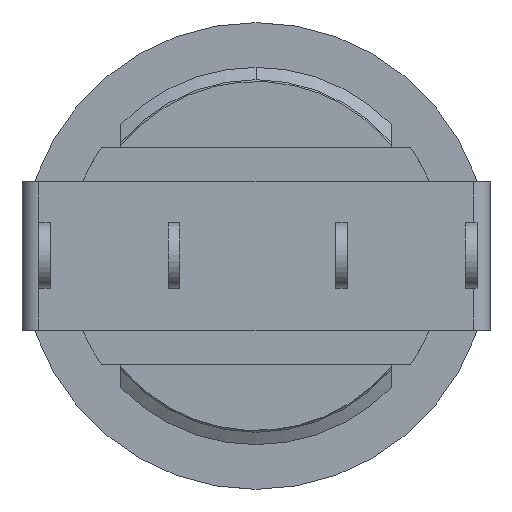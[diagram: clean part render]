
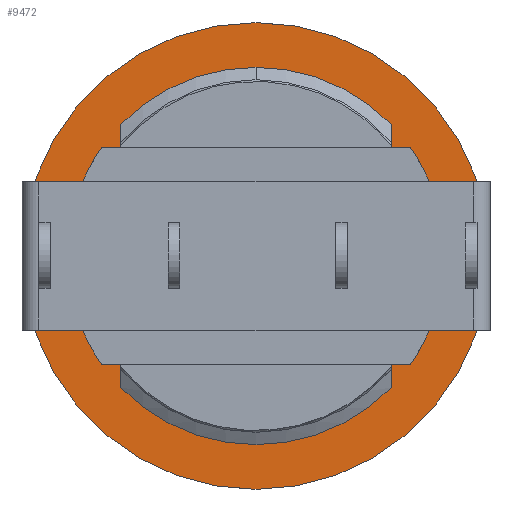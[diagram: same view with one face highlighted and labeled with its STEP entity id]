
A CAD part, front view. The second image highlights one B-rep face of the part: STEP entity #9472.
In plain terms, the highlighted planar face has unit normal (0, -1, 0).
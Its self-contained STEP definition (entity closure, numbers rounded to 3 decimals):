
#202 = CARTESIAN_POINT ( 'NONE',  ( 5.735, -5.1, 7.515 ) ) ;
#346 = PLANE ( 'NONE',  #8322 ) ;
#645 = EDGE_LOOP ( 'NONE', ( #3432, #6925 ) ) ;
#848 = EDGE_CURVE ( 'NONE', #8955, #4839, #5788, .T. ) ;
#1081 = DIRECTION ( 'NONE',  ( 0., 0., 1. ) ) ;
#1246 = CARTESIAN_POINT ( 'NONE',  ( 0., -5.1, 12.214 ) ) ;
#1252 = VERTEX_POINT ( 'NONE', #8197 ) ;
#1292 = CARTESIAN_POINT ( 'NONE',  ( 2.529, -5.1, 20.826 ) ) ;
#1348 = CARTESIAN_POINT ( 'NONE',  ( 2.529, -5.1, 3.602 ) ) ;
#1515 = ORIENTED_EDGE ( 'NONE', *, *, #848, .F. ) ;
#1582 = CARTESIAN_POINT ( 'NONE',  ( 0., -5.1, 2.314 ) ) ;
#1636 =( BOUNDED_CURVE ( )  B_SPLINE_CURVE ( 3, ( #5682, #1292, #7905, #3477 ),
 .UNSPECIFIED., .F., .T. ) 
 B_SPLINE_CURVE_WITH_KNOTS ( ( 4, 4 ),
 ( 0., 0.013 ),
 .UNSPECIFIED. ) 
 CURVE ( )  GEOMETRIC_REPRESENTATION_ITEM ( )  RATIONAL_B_SPLINE_CURVE ( ( 0.982, 0.742, 0.742, 0.982 ) ) 
 REPRESENTATION_ITEM ( '' )  );
#1664 = EDGE_CURVE ( 'NONE', #1252, #4468, #1804, .T. ) ;
#1787 = AXIS2_PLACEMENT_3D ( 'NONE', #3161, #8350, #3922 ) ;
#1804 = CIRCLE ( 'NONE', #6633, 9.9 ) ;
#1890 = VECTOR ( 'NONE', #7682, 1000. ) ;
#2082 = ORIENTED_EDGE ( 'NONE', *, *, #7396, .F. ) ;
#2298 = EDGE_CURVE ( 'NONE', #4060, #8955, #8040, .T. ) ;
#2327 = CARTESIAN_POINT ( 'NONE',  ( -5.735, -5.1, 7.515 ) ) ;
#3161 = CARTESIAN_POINT ( 'NONE',  ( 0., -5.1, 12.214 ) ) ;
#3391 = CARTESIAN_POINT ( 'NONE',  ( 5.735, -5.1, 16.913 ) ) ;
#3432 = ORIENTED_EDGE ( 'NONE', *, *, #1664, .F. ) ;
#3477 = CARTESIAN_POINT ( 'NONE',  ( -5.735, -5.1, 16.913 ) ) ;
#3493 = FACE_OUTER_BOUND ( 'NONE', #645, .T. ) ;
#3887 = CARTESIAN_POINT ( 'NONE',  ( -5.735, -5.1, 12.214 ) ) ;
#3894 = ORIENTED_EDGE ( 'NONE', *, *, #2298, .F. ) ;
#3897 = DIRECTION ( 'NONE',  ( 0., 0., 1. ) ) ;
#3922 = DIRECTION ( 'NONE',  ( 0., 0., 1. ) ) ;
#3991 = CARTESIAN_POINT ( 'NONE',  ( -10.019, -5.1, 2.195 ) ) ;
#4024 = CARTESIAN_POINT ( 'NONE',  ( 5.735, -5.1, 12.214 ) ) ;
#4060 = VERTEX_POINT ( 'NONE', #2327 ) ;
#4068 = CIRCLE ( 'NONE', #1787, 9.9 ) ;
#4166 = DIRECTION ( 'NONE',  ( 0., 1., 0. ) ) ;
#4468 = VERTEX_POINT ( 'NONE', #1582 ) ;
#4741 = VECTOR ( 'NONE', #5351, 1000. ) ;
#4839 = VERTEX_POINT ( 'NONE', #3391 ) ;
#5008 = CARTESIAN_POINT ( 'NONE',  ( -5.735, -5.1, 7.515 ) ) ;
#5351 = DIRECTION ( 'NONE',  ( 0., 0., -1. ) ) ;
#5419 = EDGE_CURVE ( 'NONE', #4468, #1252, #4068, .T. ) ;
#5452 = DIRECTION ( 'NONE',  ( 0., 1., 0. ) ) ;
#5682 = CARTESIAN_POINT ( 'NONE',  ( 5.735, -5.1, 16.913 ) ) ;
#5737 = CARTESIAN_POINT ( 'NONE',  ( -2.529, -5.1, 3.602 ) ) ;
#5788 = LINE ( 'NONE', #4024, #1890 ) ;
#5898 = EDGE_CURVE ( 'NONE', #4839, #6880, #1636, .T. ) ;
#6288 = CARTESIAN_POINT ( 'NONE',  ( -5.735, -5.1, 16.913 ) ) ;
#6474 = ORIENTED_EDGE ( 'NONE', *, *, #5898, .F. ) ;
#6477 = CARTESIAN_POINT ( 'NONE',  ( 5.735, -5.1, 7.515 ) ) ;
#6633 = AXIS2_PLACEMENT_3D ( 'NONE', #1246, #4166, #3897 ) ;
#6680 = LINE ( 'NONE', #3887, #4741 ) ;
#6880 = VERTEX_POINT ( 'NONE', #6288 ) ;
#6925 = ORIENTED_EDGE ( 'NONE', *, *, #5419, .F. ) ;
#7396 = EDGE_CURVE ( 'NONE', #6880, #4060, #6680, .T. ) ;
#7682 = DIRECTION ( 'NONE',  ( 0., 0., 1. ) ) ;
#7905 = CARTESIAN_POINT ( 'NONE',  ( -2.529, -5.1, 20.826 ) ) ;
#8040 =( BOUNDED_CURVE ( )  B_SPLINE_CURVE ( 3, ( #5008, #5737, #1348, #6477 ),
 .UNSPECIFIED., .F., .T. ) 
 B_SPLINE_CURVE_WITH_KNOTS ( ( 4, 4 ),
 ( 0., 0.013 ),
 .UNSPECIFIED. ) 
 CURVE ( )  GEOMETRIC_REPRESENTATION_ITEM ( )  RATIONAL_B_SPLINE_CURVE ( ( 0.982, 0.742, 0.742, 0.982 ) ) 
 REPRESENTATION_ITEM ( '' )  );
#8197 = CARTESIAN_POINT ( 'NONE',  ( 0., -5.1, 22.114 ) ) ;
#8322 = AXIS2_PLACEMENT_3D ( 'NONE', #3991, #5452, #1081 ) ;
#8350 = DIRECTION ( 'NONE',  ( 0., 1., 0. ) ) ;
#8955 = VERTEX_POINT ( 'NONE', #202 ) ;
#9166 = FACE_BOUND ( 'NONE', #9355, .T. ) ;
#9355 = EDGE_LOOP ( 'NONE', ( #1515, #3894, #2082, #6474 ) ) ;
#9472 = ADVANCED_FACE ( 'NONE', ( #9166, #3493 ), #346, .F. ) ;
